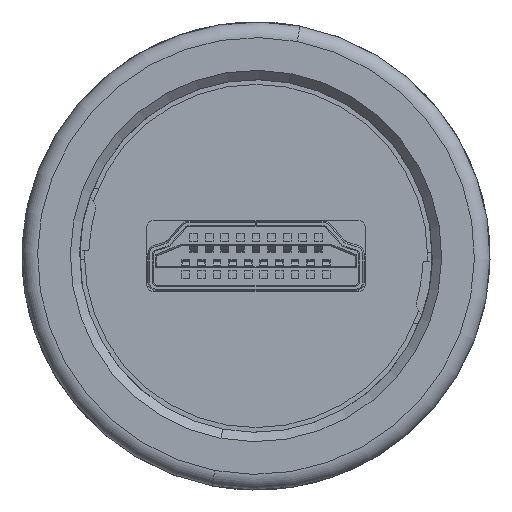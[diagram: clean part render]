
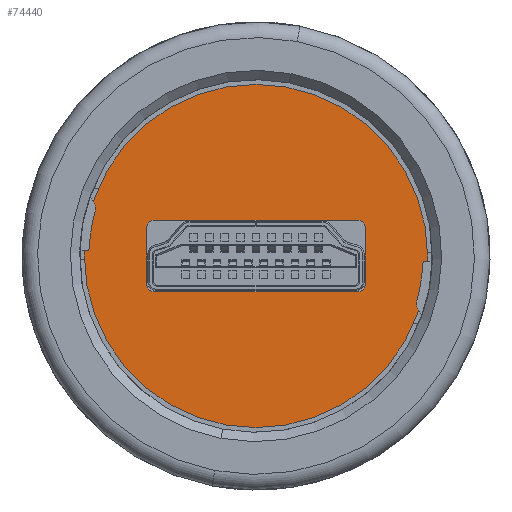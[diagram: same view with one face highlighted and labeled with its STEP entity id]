
A CAD part, front view. The second image highlights one B-rep face of the part: STEP entity #74440.
In plain terms, the highlighted planar face has unit normal (0, -1, 0) as drawn and (0, 0, -1) by its records, which use the part's own axes.
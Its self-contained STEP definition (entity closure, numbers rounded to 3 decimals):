
#23221 = ORIENTED_EDGE ( 'NONE', *, *, #71454, .F. ) ;
#23223 = ORIENTED_EDGE ( 'NONE', *, *, #71431, .F. ) ;
#23224 = ORIENTED_EDGE ( 'NONE', *, *, #71457, .T. ) ;
#23227 = ORIENTED_EDGE ( 'NONE', *, *, #71459, .T. ) ;
#23229 = ORIENTED_EDGE ( 'NONE', *, *, #71461, .T. ) ;
#23231 = ORIENTED_EDGE ( 'NONE', *, *, #71463, .T. ) ;
#23233 = ORIENTED_EDGE ( 'NONE', *, *, #71465, .T. ) ;
#23234 = ORIENTED_EDGE ( 'NONE', *, *, #71467, .T. ) ;
#23235 = ORIENTED_EDGE ( 'NONE', *, *, #71469, .T. ) ;
#23237 = ORIENTED_EDGE ( 'NONE', *, *, #71472, .T. ) ;
#36336 = AXIS2_PLACEMENT_3D ( 'NONE', #69023, #69024, #69026 ) ;
#36342 = AXIS2_PLACEMENT_3D ( 'NONE', #69089, #69091, #69093 ) ;
#36343 = AXIS2_PLACEMENT_3D ( 'NONE', #69102, #69104, #72042 ) ;
#36344 = AXIS2_PLACEMENT_3D ( 'NONE', #72050, #72052, #72054 ) ;
#36345 = AXIS2_PLACEMENT_3D ( 'NONE', #72062, #72064, #72066 ) ;
#36346 = AXIS2_PLACEMENT_3D ( 'NONE', #72072, #72074, #72076 ) ;
#61850 = CARTESIAN_POINT ( 'NONE',  ( 6.5, -2.3, 0. ) ) ;
#62351 = CARTESIAN_POINT ( 'NONE',  ( -7., 1.8, 0. ) ) ;
#62502 = CARTESIAN_POINT ( 'NONE',  ( -6.5, 2.3, 0. ) ) ;
#62648 = CARTESIAN_POINT ( 'NONE',  ( 11., 0., 0. ) ) ;
#62650 = CARTESIAN_POINT ( 'NONE',  ( -11., 0., 0. ) ) ;
#62654 = CARTESIAN_POINT ( 'NONE',  ( 6.5, 2.3, 0. ) ) ;
#63474 = CARTESIAN_POINT ( 'NONE',  ( 7., -1.8, 0. ) ) ;
#63510 = CARTESIAN_POINT ( 'NONE',  ( -6.5, -2.3, 0. ) ) ;
#63511 = CARTESIAN_POINT ( 'NONE',  ( -7., -1.8, 0. ) ) ;
#63512 = CARTESIAN_POINT ( 'NONE',  ( 7., 1.8, 0. ) ) ;
#66450 = CIRCLE ( 'NONE', #36336, 11. ) ;
#66466 = CIRCLE ( 'NONE', #36343, 0.5 ) ;
#66468 = CIRCLE ( 'NONE', #36342, 11. ) ;
#66469 = LINE ( 'NONE', #69077, #66471 ) ;
#66471 = VECTOR ( 'NONE', #69079, 1000. ) ;
#66472 = LINE ( 'NONE', #69095, #66474 ) ;
#66473 = CIRCLE ( 'NONE', #36344, 0.5 ) ;
#66474 = VECTOR ( 'NONE', #69086, 1000. ) ;
#66475 = LINE ( 'NONE', #69098, #66477 ) ;
#66476 = CIRCLE ( 'NONE', #36345, 0.5 ) ;
#66477 = VECTOR ( 'NONE', #69100, 1000. ) ;
#66478 = LINE ( 'NONE', #72046, #66480 ) ;
#66479 = CIRCLE ( 'NONE', #36346, 0.5 ) ;
#66480 = VECTOR ( 'NONE', #72048, 1000. ) ;
#68840 = VERTEX_POINT ( 'NONE', #61850 ) ;
#69023 = CARTESIAN_POINT ( 'NONE',  ( 0., 0., 0. ) ) ;
#69024 = DIRECTION ( 'NONE',  ( 0., 0., 1. ) ) ;
#69026 = DIRECTION ( 'NONE',  ( 1., 0., 0. ) ) ;
#69077 = CARTESIAN_POINT ( 'NONE',  ( -7., 2.3, 0. ) ) ;
#69079 = DIRECTION ( 'NONE',  ( -1., 0., 0. ) ) ;
#69086 = DIRECTION ( 'NONE',  ( 0., -1., 0. ) ) ;
#69089 = CARTESIAN_POINT ( 'NONE',  ( 0., 0., 0. ) ) ;
#69091 = DIRECTION ( 'NONE',  ( 0., 0., 1. ) ) ;
#69093 = DIRECTION ( 'NONE',  ( 1., 0., 0. ) ) ;
#69095 = CARTESIAN_POINT ( 'NONE',  ( -7., 2.3, 0. ) ) ;
#69098 = CARTESIAN_POINT ( 'NONE',  ( -7., -2.3, 0. ) ) ;
#69100 = DIRECTION ( 'NONE',  ( 1., 0., 0. ) ) ;
#69102 = CARTESIAN_POINT ( 'NONE',  ( -6.5, 1.8, 0. ) ) ;
#69104 = DIRECTION ( 'NONE',  ( 0., 0., 1. ) ) ;
#69229 = VERTEX_POINT ( 'NONE', #62351 ) ;
#69310 = VERTEX_POINT ( 'NONE', #62502 ) ;
#69389 = VERTEX_POINT ( 'NONE', #62648 ) ;
#69390 = VERTEX_POINT ( 'NONE', #62650 ) ;
#69392 = VERTEX_POINT ( 'NONE', #62654 ) ;
#69915 = VERTEX_POINT ( 'NONE', #63474 ) ;
#69951 = VERTEX_POINT ( 'NONE', #63510 ) ;
#69952 = VERTEX_POINT ( 'NONE', #63511 ) ;
#69953 = VERTEX_POINT ( 'NONE', #63512 ) ;
#70114 = EDGE_LOOP ( 'NONE', ( #23224, #23227, #23229, #23231, #23233, #23234, #23235, #23237 ) ) ;
#70117 = EDGE_LOOP ( 'NONE', ( #23221, #23223 ) ) ;
#71431 = EDGE_CURVE ( 'NONE', #69389, #69390, #66450, .T. ) ;
#71454 = EDGE_CURVE ( 'NONE', #69390, #69389, #66468, .T. ) ;
#71457 = EDGE_CURVE ( 'NONE', #69392, #69310, #66469, .T. ) ;
#71459 = EDGE_CURVE ( 'NONE', #69310, #69229, #66466, .T. ) ;
#71461 = EDGE_CURVE ( 'NONE', #69229, #69952, #66472, .T. ) ;
#71463 = EDGE_CURVE ( 'NONE', #69952, #69951, #66473, .T. ) ;
#71465 = EDGE_CURVE ( 'NONE', #69951, #68840, #66475, .T. ) ;
#71467 = EDGE_CURVE ( 'NONE', #68840, #69915, #66476, .T. ) ;
#71469 = EDGE_CURVE ( 'NONE', #69915, #69953, #66478, .T. ) ;
#71472 = EDGE_CURVE ( 'NONE', #69953, #69392, #66479, .T. ) ;
#72042 = DIRECTION ( 'NONE',  ( 1., 0., 0. ) ) ;
#72046 = CARTESIAN_POINT ( 'NONE',  ( 7., 2.3, 0. ) ) ;
#72048 = DIRECTION ( 'NONE',  ( 0., 1., 0. ) ) ;
#72050 = CARTESIAN_POINT ( 'NONE',  ( -6.5, -1.8, 0. ) ) ;
#72052 = DIRECTION ( 'NONE',  ( 0., 0., 1. ) ) ;
#72054 = DIRECTION ( 'NONE',  ( 1., 0., 0. ) ) ;
#72062 = CARTESIAN_POINT ( 'NONE',  ( 6.5, -1.8, 0. ) ) ;
#72064 = DIRECTION ( 'NONE',  ( 0., 0., 1. ) ) ;
#72066 = DIRECTION ( 'NONE',  ( 1., 0., 0. ) ) ;
#72072 = CARTESIAN_POINT ( 'NONE',  ( 6.5, 1.8, 0. ) ) ;
#72074 = DIRECTION ( 'NONE',  ( 0., 0., 1. ) ) ;
#72076 = DIRECTION ( 'NONE',  ( 1., 0., 0. ) ) ;
#74440 = ADVANCED_FACE ( 'NONE', ( #78239, #78241 ), #84923, .F. ) ;
#78239 = FACE_OUTER_BOUND ( 'NONE', #70117, .T. ) ;
#78241 = FACE_BOUND ( 'NONE', #70114, .T. ) ;
#81929 = AXIS2_PLACEMENT_3D ( 'NONE', #84917, #84925, #84926 ) ;
#84917 = CARTESIAN_POINT ( 'NONE',  ( 0., 0., 0. ) ) ;
#84923 = PLANE ( 'NONE',  #81929 ) ;
#84925 = DIRECTION ( 'NONE',  ( 0., 0., 1. ) ) ;
#84926 = DIRECTION ( 'NONE',  ( 1., 0., 0. ) ) ;
